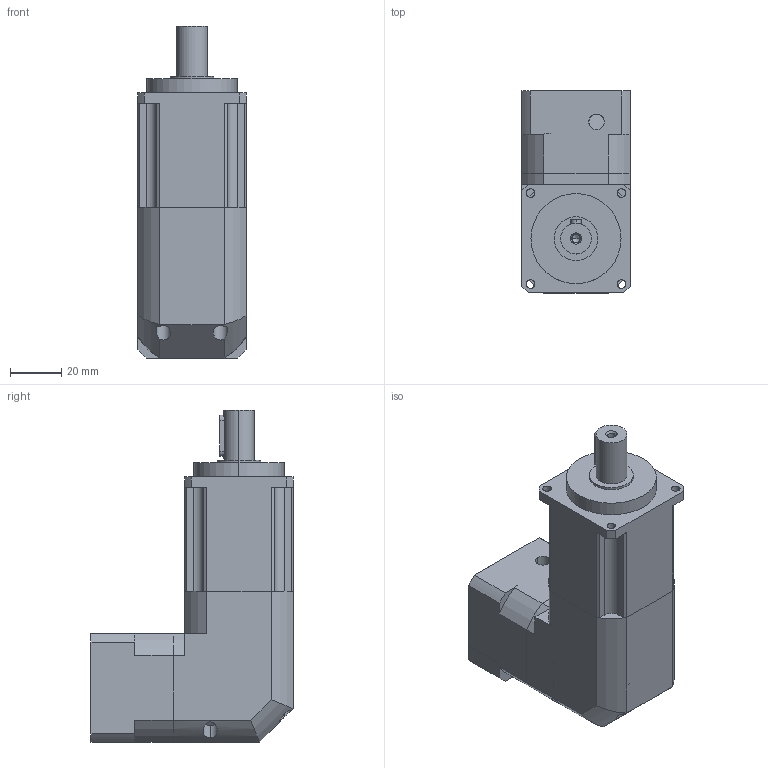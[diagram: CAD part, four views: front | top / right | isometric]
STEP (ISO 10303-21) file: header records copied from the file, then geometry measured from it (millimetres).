
FILE_DESCRIPTION (( 'STEP AP214' ), '1' );
FILE_NAME ('PAR042-L2-S2-P1 8-30-46-M3.STEP', '2024-04-20T01:40:21', ( '微软用户' ), ( '微软中国' ), 'SwSTEP 2.0', 'SolidWorks 2021', '' );
FILE_SCHEMA (( 'AUTOMOTIVE_DESIGN' ));
Length unit declared in the file: millimetre
Products named in the file (4): ________2022.3.27.STEP; ____1-2.STEP; PAR042-L2-S2-P1 8-30-46-M3; YB42________.STEP
Assembly tree (3 placements, depth 2):
  PAR042-L2-S2-P1 8-30-46-M3
    ____1-2.STEP
    ________2022.3.27.STEP
    YB42________.STEP
Bounding box: 42 x 78.5 x 129 mm (x, y, z)
Volume: 227234.8 mm3; surface area: 39419.2 mm2
Topology: 3 solids, 5 shells, 232 faces, 585 edges, 373 vertices
Faces by surface type: cylinder 143, plane 70, cone 19
Entity records: 10054 total; most frequent: CARTESIAN_POINT 1820, DIRECTION 1250, ORIENTED_EDGE 1136, EDGE_CURVE 568, AXIS2_PLACEMENT_3D 491, VERTEX_POINT 373, EDGE_LOOP 279, LINE 268
